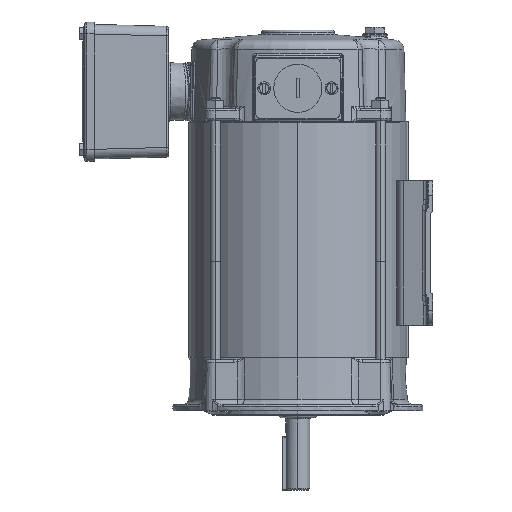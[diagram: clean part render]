
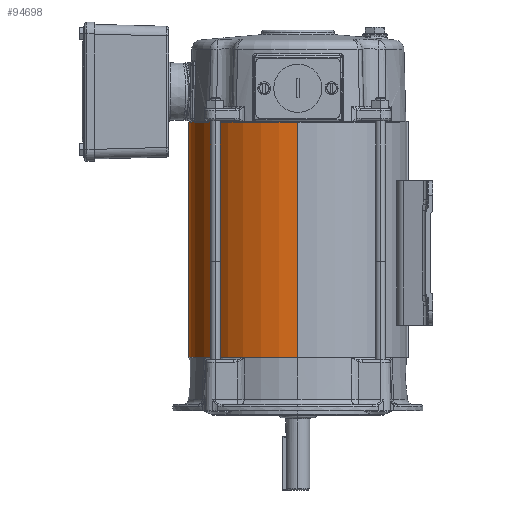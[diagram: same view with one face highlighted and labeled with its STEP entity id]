
A CAD part, left-side view. The second image highlights one B-rep face of the part: STEP entity #94698.
In plain terms, the highlighted cylindrical face has radius 71.857 mm (diameter 143.713 mm), a partial arc.
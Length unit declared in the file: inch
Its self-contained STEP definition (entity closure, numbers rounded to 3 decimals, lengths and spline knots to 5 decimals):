
#267 = CYLINDRICAL_SURFACE ( 'NONE', #76882, 2.829 ) ;
#6132 = CARTESIAN_POINT ( 'NONE',  ( 2.829, 0., 3.43545 ) ) ;
#7629 = ORIENTED_EDGE ( 'NONE', *, *, #7715, .T. ) ;
#7715 = EDGE_CURVE ( 'NONE', #32545, #39617, #61555, .T. ) ;
#9184 = CARTESIAN_POINT ( 'NONE',  ( -2.829, 0., 9.55045 ) ) ;
#9280 = DIRECTION ( 'NONE',  ( 1., 0., 0. ) ) ;
#13536 = EDGE_LOOP ( 'NONE', ( #42126, #58910, #7629, #97153 ) ) ;
#17166 = CARTESIAN_POINT ( 'NONE',  ( 0., 0., 3.43545 ) ) ;
#19965 = DIRECTION ( 'NONE',  ( 0., 0., 1. ) ) ;
#21526 = VECTOR ( 'NONE', #68625, 39.37008 ) ;
#21898 = LINE ( 'NONE', #6132, #21526 ) ;
#32545 = VERTEX_POINT ( 'NONE', #9184 ) ;
#35135 = CARTESIAN_POINT ( 'NONE',  ( -2.829, 0., 3.44545 ) ) ;
#37617 = LINE ( 'NONE', #38315, #78993 ) ;
#38315 = CARTESIAN_POINT ( 'NONE',  ( -2.829, 0., 3.43545 ) ) ;
#39617 = VERTEX_POINT ( 'NONE', #44088 ) ;
#42126 = ORIENTED_EDGE ( 'NONE', *, *, #99989, .T. ) ;
#43617 = CARTESIAN_POINT ( 'NONE',  ( 2.829, 0., 3.44545 ) ) ;
#44088 = CARTESIAN_POINT ( 'NONE',  ( 2.829, 0., 9.55045 ) ) ;
#53545 = EDGE_CURVE ( 'NONE', #80583, #39617, #21898, .T. ) ;
#53564 = DIRECTION ( 'NONE',  ( 1., 0., 0. ) ) ;
#53703 = DIRECTION ( 'NONE',  ( 0., 0., -1. ) ) ;
#54481 = CARTESIAN_POINT ( 'NONE',  ( 0., 0., 9.55045 ) ) ;
#55830 = AXIS2_PLACEMENT_3D ( 'NONE', #54481, #53703, #53564 ) ;
#58910 = ORIENTED_EDGE ( 'NONE', *, *, #88062, .T. ) ;
#61040 = CIRCLE ( 'NONE', #92220, 2.829 ) ;
#61555 = CIRCLE ( 'NONE', #55830, 2.829 ) ;
#62675 = FACE_OUTER_BOUND ( 'NONE', #13536, .T. ) ;
#66744 = CARTESIAN_POINT ( 'NONE',  ( 0., 0., 3.44545 ) ) ;
#68625 = DIRECTION ( 'NONE',  ( 0., 0., 1. ) ) ;
#71764 = DIRECTION ( 'NONE',  ( 0., 0., 1. ) ) ;
#74513 = DIRECTION ( 'NONE',  ( 1., 0., 0. ) ) ;
#76882 = AXIS2_PLACEMENT_3D ( 'NONE', #17166, #71764, #9280 ) ;
#78993 = VECTOR ( 'NONE', #92669, 39.37008 ) ;
#80583 = VERTEX_POINT ( 'NONE', #43617 ) ;
#86111 = VERTEX_POINT ( 'NONE', #35135 ) ;
#88062 = EDGE_CURVE ( 'NONE', #86111, #32545, #37617, .T. ) ;
#92220 = AXIS2_PLACEMENT_3D ( 'NONE', #66744, #19965, #74513 ) ;
#92669 = DIRECTION ( 'NONE',  ( 0., 0., 1. ) ) ;
#94698 = ADVANCED_FACE ( 'NONE', ( #62675 ), #267, .T. ) ;
#97153 = ORIENTED_EDGE ( 'NONE', *, *, #53545, .F. ) ;
#99989 = EDGE_CURVE ( 'NONE', #80583, #86111, #61040, .T. ) ;
